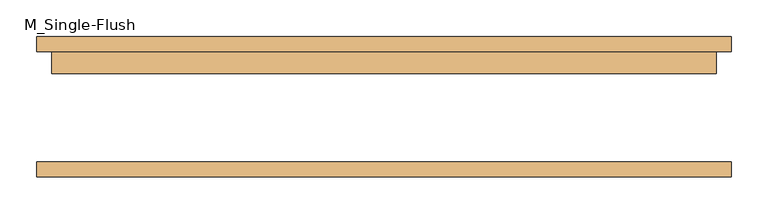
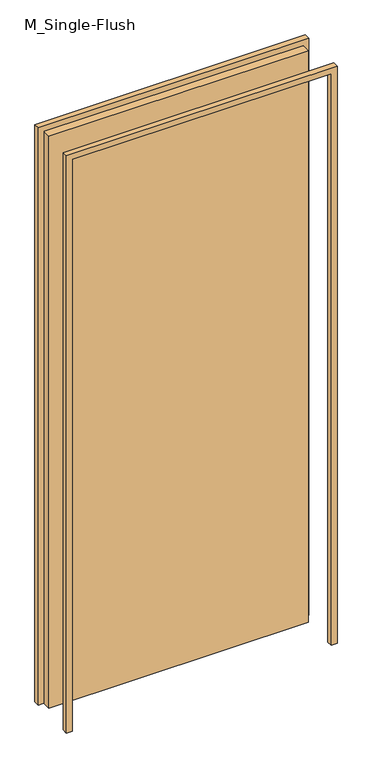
"""IFC4 building model written with IfcOpenShell, lengths in millimetres: door geometry, M_Single-Flush : 90x210 室內."""

from ifc_helpers import new_model, si_unit, frame, origin, origin_with_axes, place, context, project, spatial, polyline, outline, extrude, source, transform, mapped, element, save


def m_single_flush_75c88c23(model_context):
    return source(origin(), model_context, "Body", "SweptSolid", [
        extrude(outline(polyline([(2120.0, -470.0), (0.0, -470.0), (0.0, -450.0), (2100.0, -450.0), (2100.0, 450.0), (0.0, 450.0), (0.0, 470.0), (2120.0, 470.0), (2120.0, -470.0)])), frame((0.0, 75.0, 0.0), z_axis=(0.0, 1.0, 0.0), x_axis=(0.0, 0.0, 1.0)), (0.0, 0.0, 1.0), 20.0),
        extrude(outline(polyline([(2120.0, 470.0), (2120.0, -470.0), (0.0, -470.0), (0.0, -450.0), (2100.0, -450.0), (2100.0, 450.0), (0.0, 450.0), (0.0, 470.0), (2120.0, 470.0)])), frame((0.0, -95.0, 0.0), z_axis=(0.0, 1.0, 0.0), x_axis=(0.0, 0.0, 1.0)), (0.0, 0.0, 1.0), 20.0),
        extrude(outline(polyline([(450.0, 45.0), (-450.0, 45.0), (-450.0, 75.0), (450.0, 75.0), (450.0, 45.0)])), origin_with_axes(), (0.0, 0.0, 1.0), 2100.0),
    ])


if __name__ == "__main__":
    model = new_model("IFC4")
    model_context = context("Model", 3, world=origin())
    ifc_project = project(units=[si_unit("LENGTHUNIT", "METRE", prefix="MILLI")], contexts=[model_context])
    site = spatial("IfcSite", under=ifc_project)
    building = spatial("IfcBuilding", under=site)
    placement = place(None, origin())
    m_single_flush_shape = m_single_flush_75c88c23(model_context)
    element("IfcDoor", 1, ObjectType="M_Single-Flush : 90x210 室內", at=placement, inside=building, context=model_context, shape_type="MappedRepresentation", body=[
        mapped(m_single_flush_shape, transform((0.0, 0.0, 0.0), x_axis=(1.0, 0.0, 0.0), y_axis=(0.0, 1.0, 0.0), z_axis=(0.0, 0.0, 1.0))),
    ])
    save(model, "model.ifc")
